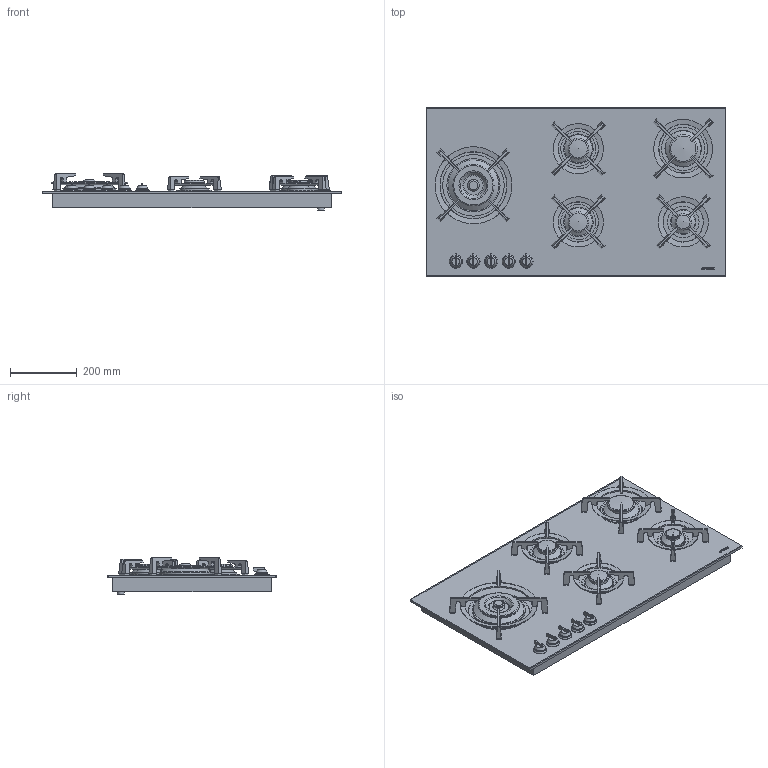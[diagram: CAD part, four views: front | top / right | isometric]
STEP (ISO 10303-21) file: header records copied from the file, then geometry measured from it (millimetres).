
FILE_DESCRIPTION(/* description */ (''),/* implementation_level */ '2;1');
FILE_NAME(/* name */ 'PV695LCNR.stp',/* time_stamp */ '2017-10-26T14:05:46+02:00',/* author */ (''),/* organization */ (''),/* preprocessor_version */ 'ST-DEVELOPER v16',/* originating_system */ 'SIEMENS PLM Software NX 11.0',/* authorisation */ '');
FILE_SCHEMA (('AUTOMOTIVE_DESIGN { 1 0 10303 214 3 1 1 1 }'));
Length unit declared in the file: millimetre
Products named in the file (1): gras42407D69f41d
Bounding box: 900 x 510 x 109 mm (x, y, z)
Volume: 21741502.4 mm3; surface area: 2405846.5 mm2
Topology: 44 solids, 44 shells, 768 faces, 1838 edges, 1211 vertices
Faces by surface type: plane 520, cylinder 171, cone 24, torus 19, revolution 15, extrusion 11, sphere 8
Full cylindrical faces by diameter (mm): 3.37 x6, 5 x5, 20 x6, 20.5 x2, 25 x1, 33 x1, 40 x5, 42 x1, 43 x1, 55 x2, 56 x2, 70.5 x1, 75 x2, 77.5 x1, 78.5 x1, 83 x2, 89 x4, 90 x1, 95 x1, 100 x2, 105 x2, 106 x1, 110 x2, 111 x1, 113.5 x1, 122 x1, 125 x1, 130 x1, 150.61 x3, 152 x1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
Entity records: 21914 total; most frequent: CARTESIAN_POINT 4374, DIRECTION 3472, ORIENTED_EDGE 3326, EDGE_CURVE 1663, VERTEX_POINT 1170, AXIS2_PLACEMENT_3D 1158, VECTOR 1141, LINE 1130
